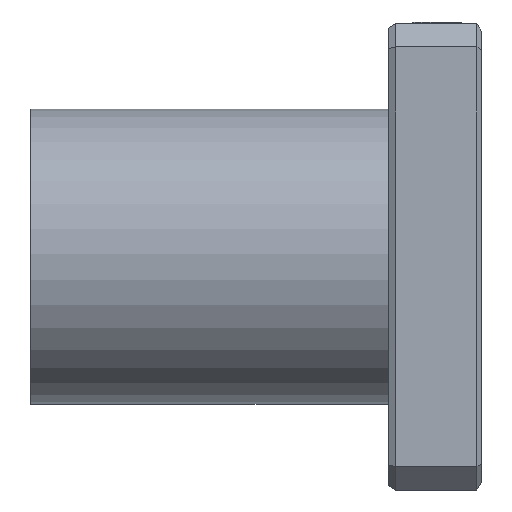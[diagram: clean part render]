
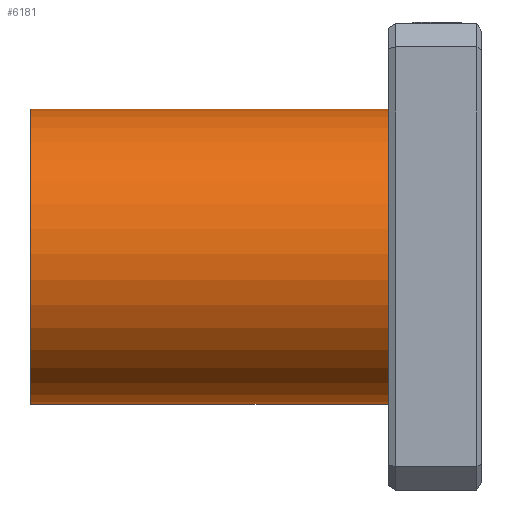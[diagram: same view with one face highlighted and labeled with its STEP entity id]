
A CAD part, left-side view. The second image highlights one B-rep face of the part: STEP entity #6181.
In plain terms, the highlighted cylindrical face has radius 9.5 mm (diameter 19 mm), a partial arc.
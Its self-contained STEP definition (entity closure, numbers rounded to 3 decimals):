
#61 = LINE ( 'NONE', #8210, #3589 ) ;
#118 = VERTEX_POINT ( 'NONE', #4334 ) ;
#256 = DIRECTION ( 'NONE',  ( 0., -1., 0. ) ) ;
#950 = CARTESIAN_POINT ( 'NONE',  ( 0., 29., 0. ) ) ;
#1007 = FACE_OUTER_BOUND ( 'NONE', #2766, .T. ) ;
#1219 = LINE ( 'NONE', #6364, #2864 ) ;
#1267 = ORIENTED_EDGE ( 'NONE', *, *, #5085, .T. ) ;
#1361 = DIRECTION ( 'NONE',  ( 0., 1., 0. ) ) ;
#1369 = CIRCLE ( 'NONE', #3063, 9.5 ) ;
#1766 = CARTESIAN_POINT ( 'NONE',  ( 0., 0., 9.5 ) ) ;
#2766 = EDGE_LOOP ( 'NONE', ( #4756, #4886, #3979, #1267 ) ) ;
#2864 = VECTOR ( 'NONE', #7078, 1000. ) ;
#3063 = AXIS2_PLACEMENT_3D ( 'NONE', #3648, #8572, #4364 ) ;
#3217 = VERTEX_POINT ( 'NONE', #8278 ) ;
#3589 = VECTOR ( 'NONE', #3994, 1000. ) ;
#3648 = CARTESIAN_POINT ( 'NONE',  ( 0., 29., 0. ) ) ;
#3794 = DIRECTION ( 'NONE',  ( 0., 0., -1. ) ) ;
#3901 = AXIS2_PLACEMENT_3D ( 'NONE', #950, #256, #3794 ) ;
#3979 = ORIENTED_EDGE ( 'NONE', *, *, #4953, .T. ) ;
#3994 = DIRECTION ( 'NONE',  ( 0., -1., 0. ) ) ;
#4334 = CARTESIAN_POINT ( 'NONE',  ( 0., 29., 9.5 ) ) ;
#4364 = DIRECTION ( 'NONE',  ( 0., 0., 1. ) ) ;
#4654 = AXIS2_PLACEMENT_3D ( 'NONE', #5588, #1361, #6292 ) ;
#4756 = ORIENTED_EDGE ( 'NONE', *, *, #6415, .F. ) ;
#4886 = ORIENTED_EDGE ( 'NONE', *, *, #5256, .F. ) ;
#4953 = EDGE_CURVE ( 'NONE', #9084, #3217, #61, .T. ) ;
#5085 = EDGE_CURVE ( 'NONE', #3217, #5762, #7106, .T. ) ;
#5256 = EDGE_CURVE ( 'NONE', #9084, #118, #1369, .T. ) ;
#5588 = CARTESIAN_POINT ( 'NONE',  ( 0., 0., 0. ) ) ;
#5762 = VERTEX_POINT ( 'NONE', #1766 ) ;
#6181 = ADVANCED_FACE ( 'NONE', ( #1007 ), #7611, .T. ) ;
#6292 = DIRECTION ( 'NONE',  ( 0., 0., 1. ) ) ;
#6364 = CARTESIAN_POINT ( 'NONE',  ( 0., 29., 9.5 ) ) ;
#6415 = EDGE_CURVE ( 'NONE', #118, #5762, #1219, .T. ) ;
#7078 = DIRECTION ( 'NONE',  ( 0., -1., 0. ) ) ;
#7106 = CIRCLE ( 'NONE', #4654, 9.5 ) ;
#7611 = CYLINDRICAL_SURFACE ( 'NONE', #3901, 9.5 ) ;
#8210 = CARTESIAN_POINT ( 'NONE',  ( 0., 29., -9.5 ) ) ;
#8278 = CARTESIAN_POINT ( 'NONE',  ( 0., 0., -9.5 ) ) ;
#8572 = DIRECTION ( 'NONE',  ( 0., 1., 0. ) ) ;
#8946 = CARTESIAN_POINT ( 'NONE',  ( 0., 29., -9.5 ) ) ;
#9084 = VERTEX_POINT ( 'NONE', #8946 ) ;
